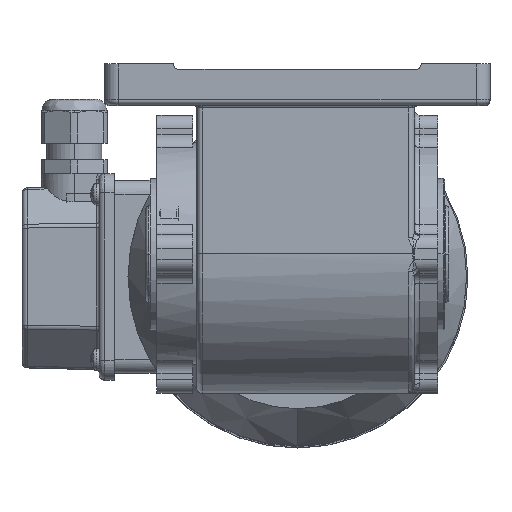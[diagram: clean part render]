
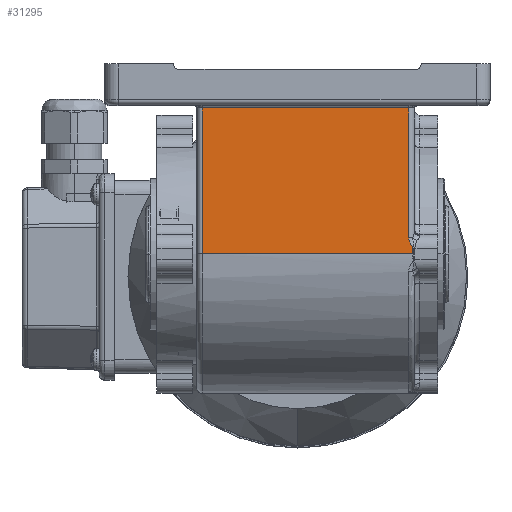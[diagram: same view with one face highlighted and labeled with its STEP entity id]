
A CAD part, top view. The second image highlights one B-rep face of the part: STEP entity #31295.
In plain terms, the highlighted planar face has unit normal (0, 0, 1).
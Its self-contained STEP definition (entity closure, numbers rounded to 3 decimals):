
#1625 = FACE_OUTER_BOUND ( 'NONE', #3423, .T. ) ;
#1630 = VECTOR ( 'NONE', #34840, 1000. ) ;
#2058 = CARTESIAN_POINT ( 'NONE',  ( 40.515, 13.58, 88. ) ) ;
#3258 = LINE ( 'NONE', #22109, #34819 ) ;
#3423 = EDGE_LOOP ( 'NONE', ( #15517, #25380, #20701, #13033, #24900, #18211 ) ) ;
#3775 = EDGE_CURVE ( 'NONE', #3891, #29150, #3258, .T. ) ;
#3891 = VERTEX_POINT ( 'NONE', #25273 ) ;
#4134 = CARTESIAN_POINT ( 'NONE',  ( 41.646, 10.826, 88. ) ) ;
#4230 = CARTESIAN_POINT ( 'NONE',  ( 42.5, 61., 88. ) ) ;
#6016 = VERTEX_POINT ( 'NONE', #9109 ) ;
#7320 = CARTESIAN_POINT ( 'NONE',  ( 41.384, 11.287, 88. ) ) ;
#7494 = CARTESIAN_POINT ( 'NONE',  ( 40.89, 12.223, 88. ) ) ;
#7710 = EDGE_CURVE ( 'NONE', #6016, #3891, #21746, .T. ) ;
#8028 = DIRECTION ( 'NONE',  ( 0., -1., 0. ) ) ;
#9109 = CARTESIAN_POINT ( 'NONE',  ( 40.5, 61., 88. ) ) ;
#9932 = CARTESIAN_POINT ( 'NONE',  ( 41.928, 10.089, 88. ) ) ;
#10292 = LINE ( 'NONE', #15928, #19187 ) ;
#11371 = EDGE_CURVE ( 'NONE', #29121, #33624, #21503, .T. ) ;
#12234 = CARTESIAN_POINT ( 'NONE',  ( 40.753, 12.552, 88. ) ) ;
#12577 = CARTESIAN_POINT ( 'NONE',  ( 41.915, 10.178, 88. ) ) ;
#12740 = CARTESIAN_POINT ( 'NONE',  ( 40.5, 13.758, 88. ) ) ;
#13002 = AXIS2_PLACEMENT_3D ( 'NONE', #4230, #14964, #17797 ) ;
#13033 = ORIENTED_EDGE ( 'NONE', *, *, #3775, .T. ) ;
#13119 = DIRECTION ( 'NONE',  ( 0., 1., 0. ) ) ;
#13461 = LINE ( 'NONE', #18584, #1630 ) ;
#13933 = EDGE_CURVE ( 'NONE', #18715, #29121, #10292, .T. ) ;
#14964 = DIRECTION ( 'NONE',  ( 0., 0., -1. ) ) ;
#15384 = CARTESIAN_POINT ( 'NONE',  ( 40.607, 13.059, 88. ) ) ;
#15517 = ORIENTED_EDGE ( 'NONE', *, *, #11371, .T. ) ;
#15928 = CARTESIAN_POINT ( 'NONE',  ( 41.928, 61., 88. ) ) ;
#17797 = DIRECTION ( 'NONE',  ( 0., 1., 0. ) ) ;
#18054 = CARTESIAN_POINT ( 'NONE',  ( 41.204, 11.591, 88. ) ) ;
#18211 = ORIENTED_EDGE ( 'NONE', *, *, #13933, .T. ) ;
#18584 = CARTESIAN_POINT ( 'NONE',  ( 42.5, 8., 88. ) ) ;
#18715 = VERTEX_POINT ( 'NONE', #33201 ) ;
#19187 = VECTOR ( 'NONE', #13119, 1000. ) ;
#20683 = CARTESIAN_POINT ( 'NONE',  ( 40.5, 13.936, 88. ) ) ;
#20687 = CARTESIAN_POINT ( 'NONE',  ( 41.87, 10.347, 88. ) ) ;
#20701 = ORIENTED_EDGE ( 'NONE', *, *, #7710, .T. ) ;
#21399 = CARTESIAN_POINT ( 'NONE',  ( 42.5, 61., 88. ) ) ;
#21503 = B_SPLINE_CURVE_WITH_KNOTS ( 'NONE', 3,
 ( #26001, #9932, #12577, #20687, #28811, #34297, #4134, #7320, #18054, #7494, #12234, #15384, #26172, #2058, #12740, #28290 ),
 .UNSPECIFIED., .F., .F.,
 ( 4, 2, 2, 2, 2, 2, 2, 4 ),
 ( 0., 0., 0.001, 0.001, 0.002, 0.003, 0.004, 0.004 ),
 .UNSPECIFIED. ) ;
#21746 = LINE ( 'NONE', #21399, #31081 ) ;
#22109 = CARTESIAN_POINT ( 'NONE',  ( -34.5, 61., 88. ) ) ;
#22908 = PLANE ( 'NONE',  #13002 ) ;
#24831 = EDGE_CURVE ( 'NONE', #33624, #6016, #30905, .T. ) ;
#24900 = ORIENTED_EDGE ( 'NONE', *, *, #30482, .F. ) ;
#25273 = CARTESIAN_POINT ( 'NONE',  ( -34.5, 61., 88. ) ) ;
#25380 = ORIENTED_EDGE ( 'NONE', *, *, #24831, .T. ) ;
#25792 = DIRECTION ( 'NONE',  ( 0., 1., 0. ) ) ;
#25971 = CARTESIAN_POINT ( 'NONE',  ( 40.5, 61., 88. ) ) ;
#26001 = CARTESIAN_POINT ( 'NONE',  ( 41.928, 10., 88. ) ) ;
#26172 = CARTESIAN_POINT ( 'NONE',  ( 40.568, 13.231, 88. ) ) ;
#27210 = DIRECTION ( 'NONE',  ( -1., 0., 0. ) ) ;
#27809 = VECTOR ( 'NONE', #25792, 1000. ) ;
#28290 = CARTESIAN_POINT ( 'NONE',  ( 40.5, 13.936, 88. ) ) ;
#28811 = CARTESIAN_POINT ( 'NONE',  ( 41.839, 10.429, 88. ) ) ;
#29121 = VERTEX_POINT ( 'NONE', #31316 ) ;
#29150 = VERTEX_POINT ( 'NONE', #31492 ) ;
#30482 = EDGE_CURVE ( 'NONE', #18715, #29150, #13461, .T. ) ;
#30905 = LINE ( 'NONE', #25971, #27809 ) ;
#31081 = VECTOR ( 'NONE', #27210, 1000. ) ;
#31295 = ADVANCED_FACE ( 'NONE', ( #1625 ), #22908, .F. ) ;
#31316 = CARTESIAN_POINT ( 'NONE',  ( 41.928, 10., 88. ) ) ;
#31492 = CARTESIAN_POINT ( 'NONE',  ( -34.5, 8., 88. ) ) ;
#33201 = CARTESIAN_POINT ( 'NONE',  ( 41.928, 8., 88. ) ) ;
#33624 = VERTEX_POINT ( 'NONE', #20683 ) ;
#34297 = CARTESIAN_POINT ( 'NONE',  ( 41.732, 10.671, 88. ) ) ;
#34819 = VECTOR ( 'NONE', #8028, 1000. ) ;
#34840 = DIRECTION ( 'NONE',  ( -1., 0., 0. ) ) ;
